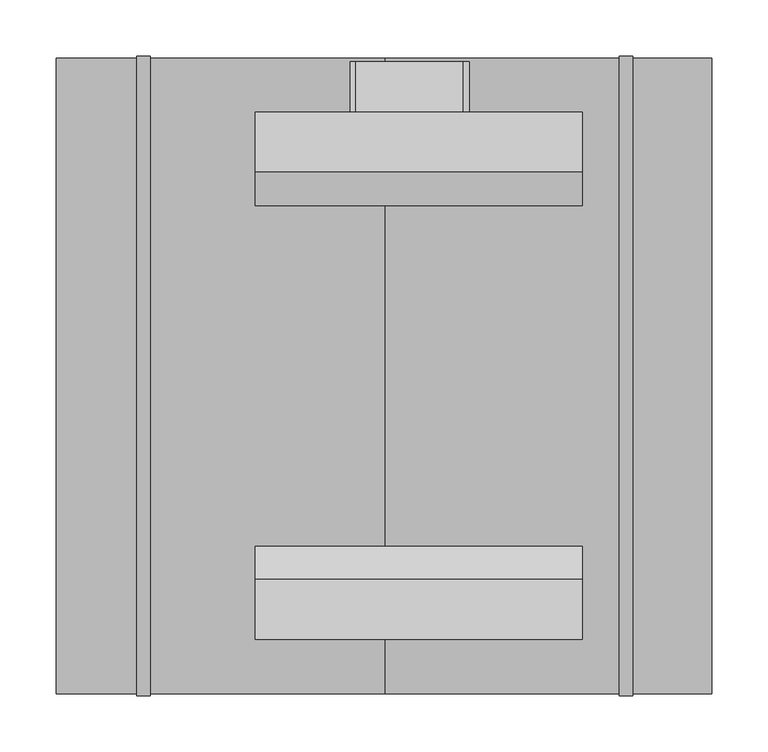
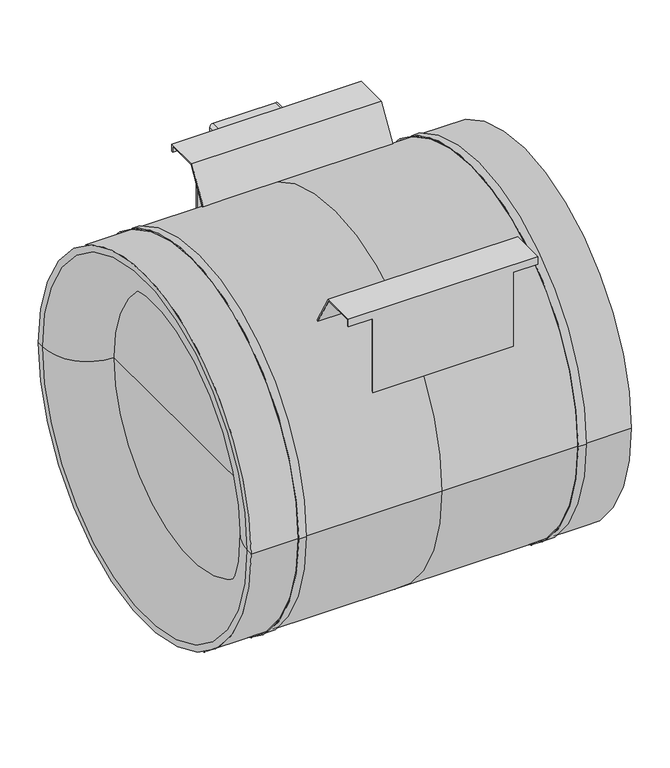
"""IFC4 building model written with IfcOpenShell, lengths in millimetres: unitary equipment geometry, VE-Wentylator-ParaForma-Harmann-JETTEC-Nawiewny : 560/9600S."""

from ifc_helpers import new_model, si_unit, point, frame, frame_2d, origin, place, context, project, spatial, polyline, circle_curve, ellipse_curve, trimmed, segment, composite_curve, outline, extrude, source, transform, mapped, element, save
from ifc_brep_helpers import plane_surface, cylinder_surface, revolved_surface, advanced_brep


def unitary_equipment_0e52d737(model_context):
    return source(origin(), model_context, "Body", "SolidModel", [
        extrude(outline(composite_curve([segment(trimmed(circle_curve(frame_2d((178.0, 69.7)), 5.0), [point((173.0, 69.7))], [point((178.0, 74.7))], False, "CARTESIAN"), True, "CONTINUOUS"), segment(polyline([(178.0, 74.7), (259.0, 74.7)]), True, "CONTINUOUS"), segment(trimmed(circle_curve(frame_2d((259.0, 69.7)), 5.0), [point((259.0, 74.7))], [point((264.0, 69.7))], False, "CARTESIAN"), True, "CONTINUOUS"), segment(polyline([(264.0, 69.7), (264.0, -25.7)]), True, "CONTINUOUS"), segment(trimmed(circle_curve(frame_2d((259.0, -25.7)), 5.0), [point((264.0, -25.7))], [point((259.0, -30.7))], False, "CARTESIAN"), True, "CONTINUOUS"), segment(polyline([(259.0, -30.7), (178.0, -30.7)]), True, "CONTINUOUS"), segment(trimmed(circle_curve(frame_2d((178.0, -25.7)), 5.0), [point((178.0, -30.7))], [point((173.0, -25.7))], False, "CARTESIAN"), True, "CONTINUOUS"), segment(polyline([(173.0, -25.7), (173.0, 69.7)]), True, "CONTINUOUS")], self_intersect=False)), frame((0.0, 234.0, 0.0), z_axis=(0.0, 1.0, 0.0), x_axis=(0.0, 0.0, 1.0)), (0.0, 0.0, 1.0), 45.0),
        advanced_brep(
        [(175.0, 234.0, 277.0), (175.0, 234.0, 289.0), (175.0, 180.8, 289.0), (175.0, 151.1693096, 238.0584799), (175.0, 152.8553733, 236.9793975), (175.0, 181.950402, 287.0), (175.0, 232.0, 287.0), (175.0, 232.0, 277.0), (137.5, 232.0, 277.0), (137.5, 234.0, 277.0), (-115.0, 232.0, 287.0), (-115.0, 232.0, 277.0), (-77.5, 232.0, 277.0), (-77.5, 232.0, 160.3121954), (137.5, 232.0, 160.3121954), (-115.0, 181.950402, 287.0), (137.5, 152.8553733, 236.9793975), (-77.5, 152.8553733, 236.9793975), (-115.0, 152.8553733, 236.9793975), (-115.0, 180.8, 289.0), (-115.0, 151.1693096, 238.0584799), (-77.5, 151.1693096, 238.0584799), (137.5, 151.1693096, 238.0584799), (-115.0, 234.0, 289.0), (137.5, 234.0, 157.3785246), (-77.5, 234.0, 157.3785246), (-77.5, 234.0, 277.0), (-115.0, 234.0, 277.0)],
        [
            (0, 1),
            (1, 2),
            (2, 3),
            (3, 4, circle_curve(frame((175.0, 0.0, 0.0), z_axis=(-1.0, 0.0, 0.0), x_axis=(0.0, 1.0, 0.0)), 282.0)),
            (4, 5),
            (5, 6),
            (6, 7),
            (7, 0),
            (7, 8),
            (8, 9),
            (9, 0),
            (6, 10),
            (10, 11),
            (11, 12),
            (12, 13),
            (13, 14),
            (14, 8),
            (5, 15),
            (15, 10),
            (4, 16),
            (16, 17),
            (17, 18),
            (18, 15),
            (19, 20),
            (20, 21),
            (21, 22),
            (22, 3),
            (2, 19),
            (1, 23),
            (23, 19),
            (9, 24),
            (24, 25),
            (25, 26),
            (26, 27),
            (27, 23),
            (20, 18, circle_curve(frame((-115.0, 0.0, 0.0), z_axis=(-1.0, 0.0, 0.0), x_axis=(0.0, 1.0, 0.0)), 282.0)),
            (17, 21, circle_curve(frame((-77.5, 0.0, 0.0), z_axis=(1.0, 0.0, 0.0), x_axis=(0.0, 1.0, 0.0)), 282.0)),
            (22, 16, circle_curve(frame((137.5, 0.0, 0.0), z_axis=(-1.0, 0.0, 0.0), x_axis=(0.0, 1.0, 0.0)), 282.0)),
            (25, 13, circle_curve(frame((-77.5, 0.0, 0.0), z_axis=(1.0, 0.0, 0.0), x_axis=(0.0, 1.0, 0.0)), 282.0)),
            (12, 26),
            (14, 24, circle_curve(frame((137.5, 0.0, 0.0), z_axis=(-1.0, 0.0, 0.0), x_axis=(0.0, 1.0, 0.0)), 282.0)),
            (27, 11),
        ],
        [
            plane_surface(frame((175.0, 0.0, 0.0), z_axis=(1.0, 0.0, 0.0), x_axis=(0.0, 0.0, 1.0))),
            plane_surface(frame((137.5, 234.0, 277.0), z_axis=(0.0, 0.0, -1.0), x_axis=(1.0, 0.0, 0.0))),
            plane_surface(frame((137.5, 232.0, 277.0), z_axis=(0.0, -1.0, 0.0), x_axis=(1.0, 0.0, 0.0))),
            plane_surface(frame((137.5, 232.0, 287.0), z_axis=(0.0, 0.0, -1.0), x_axis=(1.0, 0.0, 0.0))),
            plane_surface(frame((137.5, 181.950402, 287.0), z_axis=(0.0, 0.864407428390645, -0.5027920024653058), x_axis=(1.0, 0.0, 0.0))),
            plane_surface(frame((137.5, 12.7, 0.0), z_axis=(0.0, -0.864407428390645, 0.5027920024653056), x_axis=(1.0, 0.0, 0.0))),
            plane_surface(frame((137.5, 180.8, 289.0), z_axis=(0.0, 0.0, 1.0), x_axis=(1.0, 0.0, 0.0))),
            plane_surface(frame((137.5, 234.0, 289.0), z_axis=(0.0, 1.0, 0.0), x_axis=(1.0, 0.0, 0.0))),
            revolved_surface(polyline([(-115.0, 282.0, 0.0), (-77.5, 282.0, 0.0)]), (-115.0, 0.0, 0.0), (-1.0, 0.0, 0.0)),
            revolved_surface(polyline([(137.5, 282.0, 0.0), (175.0, 282.0, 0.0)]), (137.5, 0.0, 0.0), (-1.0, 0.0, 0.0)),
            plane_surface(frame((-77.5, 0.0, 0.0), z_axis=(-1.0, 0.0, 0.0), x_axis=(0.0, 0.0, 1.0))),
            plane_surface(frame((137.5, 0.0, 0.0), z_axis=(1.0, 0.0, 0.0), x_axis=(0.0, 0.0, 1.0))),
            revolved_surface(polyline([(-77.5, 282.0, 0.0), (137.5, 282.0, 0.0)]), (-77.5, 0.0, 0.0), (-1.0, 0.0, 0.0)),
            plane_surface(frame((-115.0, 0.0, 0.0), z_axis=(-1.0, 0.0, 0.0), x_axis=(0.0, 0.0, 1.0))),
            plane_surface(frame((-115.0, 234.0, 277.0), z_axis=(0.0, 0.0, -1.0), x_axis=(1.0, 0.0, 0.0))),
        ],
        [
            (0, [[1, 2, 3, 4, 5, 6, 7, 8]]),
            (1, [[-8, 9, 10, 11]]),
            (2, [[-7, 12, 13, 14, 15, 16, 17, -9]]),
            (3, [[-12, -6, 18, 19]]),
            (4, [[-18, -5, 20, 21, 22, 23]]),
            (5, [[24, 25, 26, 27, -3, 28]]),
            (6, [[-28, -2, 29, 30]]),
            (7, [[-29, -1, -11, 31, 32, 33, 34, 35]]),
            (8, [[36, -22, 37, -25]]),
            (9, [[-4, -27, 38, -20]]),
            (10, [[39, -15, 40, -33]]),
            (11, [[41, -31, -10, -17]]),
            (12, [[-21, -38, -26, -37]]),
            (12, [[-39, -32, -41, -16]]),
            (13, [[42, -13, -19, -23, -36, -24, -30, -35]]),
            (14, [[-42, -34, -40, -14]]),
        ],
    ),
        advanced_brep(
        [(175.0, -180.8, 289.0), (175.0, -234.0, 289.0), (175.0, -234.0, 277.0), (175.0, -232.0, 277.0), (175.0, -232.0, 287.0), (175.0, -181.950402, 287.0), (175.0, -152.8553733, 236.9793975), (175.0, -151.1693096, 238.0584799), (-115.0, -181.950402, 287.0), (-115.0, -152.8553733, 236.9793975), (-77.5, -152.8553733, 236.9793975), (137.5, -152.8553733, 236.9793975), (-115.0, -232.0, 287.0), (137.5, -232.0, 277.0), (137.5, -232.0, 160.3121954), (-77.5, -232.0, 160.3121954), (-77.5, -232.0, 277.0), (-115.0, -232.0, 277.0), (137.5, -234.0, 277.0), (-115.0, -234.0, 289.0), (-115.0, -234.0, 277.0), (-77.5, -234.0, 277.0), (-77.5, -234.0, 157.3785246), (137.5, -234.0, 157.3785246), (-115.0, -180.8, 289.0), (137.5, -151.1693096, 238.0584799), (-77.5, -151.1693096, 238.0584799), (-115.0, -151.1693096, 238.0584799)],
        [
            (0, 1),
            (1, 2),
            (2, 3),
            (3, 4),
            (4, 5),
            (5, 6),
            (6, 7, circle_curve(frame((175.0, 0.0, 0.0), z_axis=(-1.0, 0.0, 0.0), x_axis=(0.0, 1.0, 0.0)), 282.0)),
            (7, 0),
            (8, 9),
            (9, 10),
            (10, 11),
            (11, 6),
            (5, 8),
            (4, 12),
            (12, 8),
            (3, 13),
            (13, 14),
            (14, 15),
            (15, 16),
            (16, 17),
            (17, 12),
            (2, 18),
            (18, 13),
            (1, 19),
            (19, 20),
            (20, 21),
            (21, 22),
            (22, 23),
            (23, 18),
            (0, 24),
            (24, 19),
            (7, 25),
            (25, 26),
            (26, 27),
            (27, 24),
            (9, 27, circle_curve(frame((-115.0, 0.0, 0.0), z_axis=(-1.0, 0.0, 0.0), x_axis=(0.0, 1.0, 0.0)), 282.0)),
            (26, 10, circle_curve(frame((-77.5, 0.0, 0.0), z_axis=(1.0, 0.0, 0.0), x_axis=(0.0, 1.0, 0.0)), 282.0)),
            (11, 25, circle_curve(frame((137.5, 0.0, 0.0), z_axis=(-1.0, 0.0, 0.0), x_axis=(0.0, 1.0, 0.0)), 282.0)),
            (15, 22, circle_curve(frame((-77.5, 0.0, 0.0), z_axis=(1.0, 0.0, 0.0), x_axis=(0.0, 1.0, 0.0)), 282.0)),
            (21, 16),
            (23, 14, circle_curve(frame((137.5, 0.0, 0.0), z_axis=(-1.0, 0.0, 0.0), x_axis=(0.0, 1.0, 0.0)), 282.0)),
            (17, 20),
        ],
        [
            plane_surface(frame((175.0, 0.0, 0.0), z_axis=(1.0, 0.0, 0.0), x_axis=(0.0, 0.0, 1.0))),
            plane_surface(frame((137.5, -13.850402, -2.0), z_axis=(0.0, -0.8644074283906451, -0.5027920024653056), x_axis=(1.0, 0.0, 0.0))),
            plane_surface(frame((137.5, -181.950402, 287.0), z_axis=(0.0, 0.0, -1.0), x_axis=(1.0, 0.0, 0.0))),
            plane_surface(frame((137.5, -232.0, 287.0), z_axis=(0.0, 1.0, 0.0), x_axis=(1.0, 0.0, 0.0))),
            plane_surface(frame((137.5, -232.0, 277.0), z_axis=(0.0, 0.0, -1.0), x_axis=(1.0, 0.0, 0.0))),
            plane_surface(frame((137.5, -234.0, 277.0), z_axis=(0.0, -1.0, 0.0), x_axis=(1.0, 0.0, 0.0))),
            plane_surface(frame((137.5, -234.0, 289.0), z_axis=(0.0, 0.0, 1.0), x_axis=(1.0, 0.0, 0.0))),
            plane_surface(frame((137.5, -180.8, 289.0), z_axis=(0.0, 0.864407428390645, 0.5027920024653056), x_axis=(1.0, 0.0, 0.0))),
            revolved_surface(polyline([(-115.0, 282.0, 0.0), (-77.5, 282.0, 0.0)]), (-115.0, 0.0, 0.0), (-1.0, 0.0, 0.0)),
            revolved_surface(polyline([(137.5, 282.0, 0.0), (175.0, 282.0, 0.0)]), (137.5, 0.0, 0.0), (-1.0, 0.0, 0.0)),
            plane_surface(frame((-77.5, 0.0, 0.0), z_axis=(-1.0, 0.0, 0.0), x_axis=(0.0, 0.0, 1.0))),
            plane_surface(frame((137.5, 0.0, 0.0), z_axis=(1.0, 0.0, 0.0), x_axis=(0.0, 0.0, 1.0))),
            revolved_surface(polyline([(-77.5, 282.0, 0.0), (137.5, 282.0, 0.0)]), (-77.5, 0.0, 0.0), (-1.0, 0.0, 0.0)),
            plane_surface(frame((-115.0, 0.0, 0.0), z_axis=(-1.0, 0.0, 0.0), x_axis=(0.0, 0.0, 1.0))),
            plane_surface(frame((-115.0, -232.0, 277.0), z_axis=(0.0, 0.0, -1.0), x_axis=(1.0, 0.0, 0.0))),
        ],
        [
            (0, [[1, 2, 3, 4, 5, 6, 7, 8]]),
            (1, [[9, 10, 11, 12, -6, 13]]),
            (2, [[-13, -5, 14, 15]]),
            (3, [[-14, -4, 16, 17, 18, 19, 20, 21]]),
            (4, [[-3, 22, 23, -16]]),
            (5, [[-2, 24, 25, 26, 27, 28, 29, -22]]),
            (6, [[-24, -1, 30, 31]]),
            (7, [[-30, -8, 32, 33, 34, 35]]),
            (8, [[36, -34, 37, -10]]),
            (9, [[-7, -12, 38, -32]]),
            (10, [[39, -27, 40, -19]]),
            (11, [[41, -17, -23, -29]]),
            (12, [[-11, -37, -33, -38]]),
            (12, [[-39, -18, -41, -28]]),
            (13, [[-15, -21, 42, -25, -31, -35, -36, -9]]),
            (14, [[-42, -20, -40, -26]]),
        ],
    ),
        advanced_brep(
        [(-208.0, 282.0, 0.0), (0.0, 282.0, 0.0), (0.0, -282.0, 0.0), (-208.0, -282.0, 0.0), (-291.5, -282.0, 0.0), (-291.5, 282.0, 0.0), (-220.0, 282.0, 0.0), (-220.0, -282.0, 0.0), (-291.5, -272.0, 0.0), (-291.5, 272.0, 0.0), (-222.0, -202.5, 0.0), (-222.0, 202.5, 0.0), (-222.0, 0.0, 0.0), (290.0, -282.0, 0.0), (290.0, 282.0, 0.0), (290.0, 0.0, 0.0), (220.0, -282.0, 0.0), (220.0, 282.0, 0.0), (208.0, 282.0, 0.0), (208.0, -282.0, 0.0), (-208.0, -283.8, 0.0), (-208.0, 283.8, 0.0), (-220.0, -283.8, 0.0), (-220.0, 283.8, 0.0), (220.0, -283.8, 0.0), (220.0, 283.8, 0.0), (208.0, -283.8, 0.0), (208.0, 283.8, 0.0)],
        [
            (0, 1),
            (1, 2, circle_curve(frame((0.0, 0.0, 0.0), z_axis=(-1.0, 0.0, 0.0), x_axis=(0.0, 1.0, 0.0)), 282.0)),
            (2, 3),
            (3, 0, circle_curve(frame((-208.0, 0.0, 0.0), z_axis=(1.0, 0.0, 0.0), x_axis=(0.0, 1.0, 0.0)), 282.0)),
            (0, 3, circle_curve(frame((-208.0, 0.0, 0.0), z_axis=(1.0, 0.0, 0.0), x_axis=(0.0, 1.0, 0.0)), 282.0)),
            (2, 1, circle_curve(frame((0.0, 0.0, 0.0), z_axis=(-1.0, 0.0, 0.0), x_axis=(0.0, 1.0, 0.0)), 282.0)),
            (4, 5, circle_curve(frame((-291.5, 0.0, 0.0), z_axis=(1.0, 0.0, 0.0), x_axis=(0.0, 1.0, 0.0)), 282.0)),
            (5, 6),
            (6, 7, circle_curve(frame((-220.0, 0.0, 0.0), z_axis=(-1.0, 0.0, 0.0), x_axis=(0.0, 1.0, 0.0)), 282.0)),
            (7, 4),
            (5, 4, circle_curve(frame((-291.5, 0.0, 0.0), z_axis=(1.0, 0.0, 0.0), x_axis=(0.0, 1.0, 0.0)), 282.0)),
            (7, 6, circle_curve(frame((-220.0, 0.0, 0.0), z_axis=(-1.0, 0.0, 0.0), x_axis=(0.0, 1.0, 0.0)), 282.0)),
            (4, 8),
            (8, 9, circle_curve(frame((-291.5, 0.0, 0.0), z_axis=(1.0, 0.0, 0.0), x_axis=(0.0, 1.0, 0.0)), 272.0)),
            (9, 5),
            (9, 8, circle_curve(frame((-291.5, 0.0, 0.0), z_axis=(1.0, 0.0, 0.0), x_axis=(0.0, 1.0, 0.0)), 272.0)),
            (8, 10, circle_curve(frame((-222.0, -272.0, 0.0), z_axis=(0.0, 0.0, -1.0), x_axis=(1.0, 0.0, 0.0)), 69.5)),
            (10, 11, circle_curve(frame((-222.0, 0.0, 0.0), z_axis=(1.0, 0.0, 0.0), x_axis=(0.0, 1.0, 0.0)), 202.5)),
            (11, 9, circle_curve(frame((-222.0, 272.0, 0.0), z_axis=(0.0, 0.0, -1.0), x_axis=(1.0, 0.0, 0.0)), 69.5)),
            (11, 10, circle_curve(frame((-222.0, 0.0, 0.0), z_axis=(1.0, 0.0, 0.0), x_axis=(0.0, 1.0, 0.0)), 202.5)),
            (10, 12),
            (12, 11),
            (13, 14, circle_curve(frame((290.0, 0.0, 0.0), z_axis=(1.0, 0.0, 0.0), x_axis=(0.0, 1.0, 0.0)), 282.0)),
            (14, 15),
            (15, 13),
            (14, 13, circle_curve(frame((290.0, 0.0, 0.0), z_axis=(1.0, 0.0, 0.0), x_axis=(0.0, 1.0, 0.0)), 282.0)),
            (13, 16),
            (16, 17, circle_curve(frame((220.0, 0.0, 0.0), z_axis=(1.0, 0.0, 0.0), x_axis=(0.0, 1.0, 0.0)), 282.0)),
            (17, 14),
            (17, 16, circle_curve(frame((220.0, 0.0, 0.0), z_axis=(1.0, 0.0, 0.0), x_axis=(0.0, 1.0, 0.0)), 282.0)),
            (1, 18),
            (18, 19, circle_curve(frame((208.0, 0.0, 0.0), z_axis=(-1.0, 0.0, 0.0), x_axis=(0.0, 1.0, 0.0)), 282.0)),
            (19, 2),
            (19, 18, circle_curve(frame((208.0, 0.0, 0.0), z_axis=(-1.0, 0.0, 0.0), x_axis=(0.0, 1.0, 0.0)), 282.0)),
            (20, 21, circle_curve(frame((-208.0, 0.0, 0.0), z_axis=(1.0, 0.0, 0.0), x_axis=(0.0, 1.0, 0.0)), 283.8)),
            (21, 0),
            (3, 20),
            (21, 20, circle_curve(frame((-208.0, 0.0, 0.0), z_axis=(1.0, 0.0, 0.0), x_axis=(0.0, 1.0, 0.0)), 283.8)),
            (20, 22),
            (22, 23, circle_curve(frame((-220.0, 0.0, 0.0), z_axis=(1.0, 0.0, 0.0), x_axis=(0.0, 1.0, 0.0)), 283.8)),
            (23, 21),
            (23, 22, circle_curve(frame((-220.0, 0.0, 0.0), z_axis=(1.0, 0.0, 0.0), x_axis=(0.0, 1.0, 0.0)), 283.8)),
            (22, 7),
            (6, 23),
            (24, 25, circle_curve(frame((220.0, 0.0, 0.0), z_axis=(1.0, 0.0, 0.0), x_axis=(0.0, 1.0, 0.0)), 283.8)),
            (25, 17),
            (16, 24),
            (25, 24, circle_curve(frame((220.0, 0.0, 0.0), z_axis=(1.0, 0.0, 0.0), x_axis=(0.0, 1.0, 0.0)), 283.8)),
            (24, 26),
            (26, 27, circle_curve(frame((208.0, 0.0, 0.0), z_axis=(1.0, 0.0, 0.0), x_axis=(0.0, 1.0, 0.0)), 283.8)),
            (27, 25),
            (27, 26, circle_curve(frame((208.0, 0.0, 0.0), z_axis=(1.0, 0.0, 0.0), x_axis=(0.0, 1.0, 0.0)), 283.8)),
            (26, 19),
            (18, 27),
        ],
        [
            cylinder_surface(frame((-222.0, 0.0, 0.0), z_axis=(-1.0, 0.0, 0.0), x_axis=(0.0, 1.0, 0.0)), 282.0),
            plane_surface(frame((-291.5, 0.0, 0.0), z_axis=(-1.0, 0.0, 0.0), x_axis=(0.0, 1.0, 0.0))),
            revolved_surface(trimmed(ellipse_curve(frame((-222.0, 272.0, 0.0), z_axis=(0.0, 0.0, 1.0), x_axis=(1.0, 0.0, 0.0)), 69.5, 69.5), [point((-291.5, 272.0, 0.0))], [point((-222.0, 202.5, 0.0))], True, "CARTESIAN"), (-222.0, 0.0, 0.0), (-1.0, 0.0, 0.0)),
            plane_surface(frame((-222.0, 0.0, 0.0), z_axis=(-1.0, 0.0, 0.0), x_axis=(0.0, 1.0, 0.0))),
            plane_surface(frame((290.0, 0.0, 0.0), z_axis=(1.0, 0.0, 0.0), x_axis=(0.0, 1.0, 0.0))),
            cylinder_surface(frame((0.0, 0.0, 0.0), z_axis=(-1.0, 0.0, 0.0), x_axis=(0.0, 1.0, 0.0)), 282.0),
            plane_surface(frame((-208.0, 0.0, 0.0), z_axis=(1.0, 0.0, 0.0), x_axis=(0.0, 1.0, 0.0))),
            cylinder_surface(frame((-220.0, 0.0, 0.0), z_axis=(-1.0, 0.0, 0.0), x_axis=(0.0, 1.0, 0.0)), 283.8),
            plane_surface(frame((-220.0, 0.0, 0.0), z_axis=(-1.0, 0.0, 0.0), x_axis=(0.0, 1.0, 0.0))),
            plane_surface(frame((220.0, 0.0, 0.0), z_axis=(1.0, 0.0, 0.0), x_axis=(0.0, 1.0, 0.0))),
            plane_surface(frame((208.0, 0.0, 0.0), z_axis=(-1.0, 0.0, 0.0), x_axis=(0.0, 1.0, 0.0))),
        ],
        [
            (0, [[1, 2, 3, 4]]),
            (0, [[-1, 5, -3, 6]]),
            (0, [[7, 8, 9, 10]]),
            (0, [[-8, 11, -10, 12]]),
            (1, [[-7, 13, 14, 15]]),
            (1, [[-11, -15, 16, -13]]),
            (2, [[-14, 17, 18, 19]]),
            (2, [[-16, -19, 20, -17]]),
            (3, [[-18, 21, 22]]),
            (3, [[-20, -22, -21]]),
            (4, [[23, 24, 25]]),
            (4, [[-24, 26, -25]]),
            (5, [[-23, 27, 28, 29]]),
            (5, [[-26, -29, 30, -27]]),
            (5, [[31, 32, 33, -2]]),
            (5, [[-31, -6, -33, 34]]),
            (6, [[35, 36, -4, 37]]),
            (6, [[38, -37, -5, -36]]),
            (7, [[-35, 39, 40, 41]]),
            (7, [[-38, -41, 42, -39]]),
            (8, [[-40, 43, -9, 44]]),
            (8, [[-42, -44, -12, -43]]),
            (9, [[45, 46, -28, 47]]),
            (9, [[48, -47, -30, -46]]),
            (7, [[-45, 49, 50, 51]]),
            (7, [[-48, -51, 52, -49]]),
            (10, [[-50, 53, -32, 54]]),
            (10, [[-52, -54, -34, -53]]),
        ],
    ),
    ])


if __name__ == "__main__":
    model = new_model("IFC4")
    model_context = context("Model", 3, world=origin())
    ifc_project = project(units=[si_unit("LENGTHUNIT", "METRE", prefix="MILLI")], contexts=[model_context])
    site = spatial("IfcSite", under=ifc_project)
    building = spatial("IfcBuilding", under=site)
    placement = place(None, origin())
    unitary_equipment_shape = unitary_equipment_0e52d737(model_context)
    element("IfcUnitaryEquipment", 1, ObjectType="VE-Wentylator-ParaForma-Harmann-JETTEC-Nawiewny : 560/9600S", at=placement, inside=building, context=model_context, shape_type="MappedRepresentation", body=[
        mapped(unitary_equipment_shape, transform((0.0, 0.0, 0.0), x_axis=(1.0, 0.0, 0.0), y_axis=(0.0, 1.0, 0.0), z_axis=(0.0, 0.0, 1.0))),
    ])
    save(model, "model.ifc")
